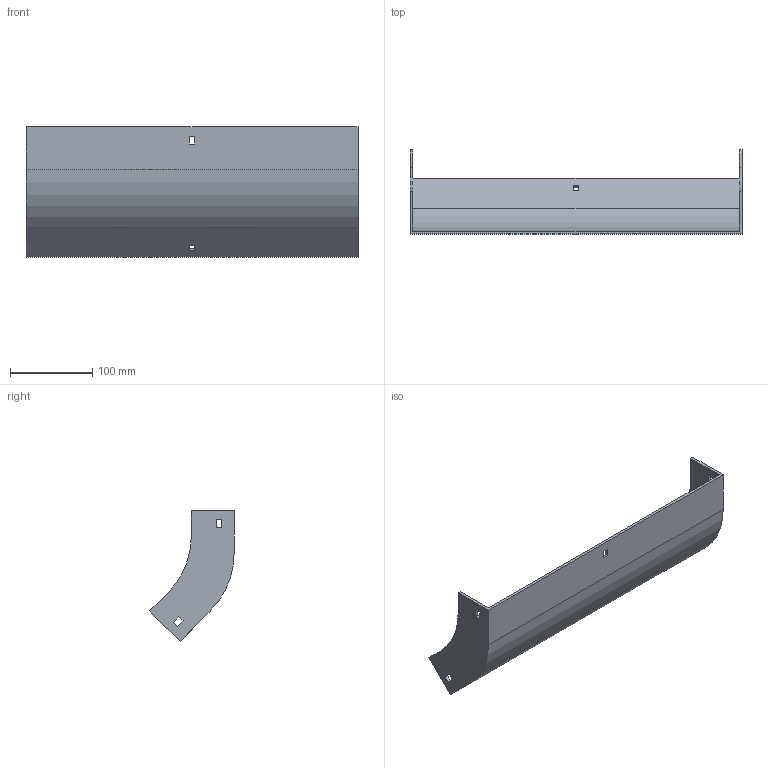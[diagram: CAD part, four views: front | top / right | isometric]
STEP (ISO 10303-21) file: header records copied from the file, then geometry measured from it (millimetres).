
FILE_DESCRIPTION (( 'STEP AP214' ), '1' );
FILE_NAME ('31F1B400.step', '2025-02-21T13:00:18', ( '' ), ( '' ), 'SwSTEP 2.0', 'SolidWorks 2023', '' );
FILE_SCHEMA (( 'AUTOMOTIVE_DESIGN' ));
Length unit declared in the file: millimetre
Products named in the file (1): 31F1B400
Bounding box: 404 x 102.5 x 158.69 mm (x, y, z)
Volume: 308893.9 mm3; surface area: 181690.2 mm2
Topology: 1 solids, 1 shells, 42 faces, 120 edges, 80 vertices
Faces by surface type: plane 38, cylinder 4
Entity records: 1399 total; most frequent: CARTESIAN_POINT 243, ORIENTED_EDGE 240, DIRECTION 214, EDGE_CURVE 120, VECTOR 112, LINE 112, VERTEX_POINT 80, EDGE_LOOP 54
